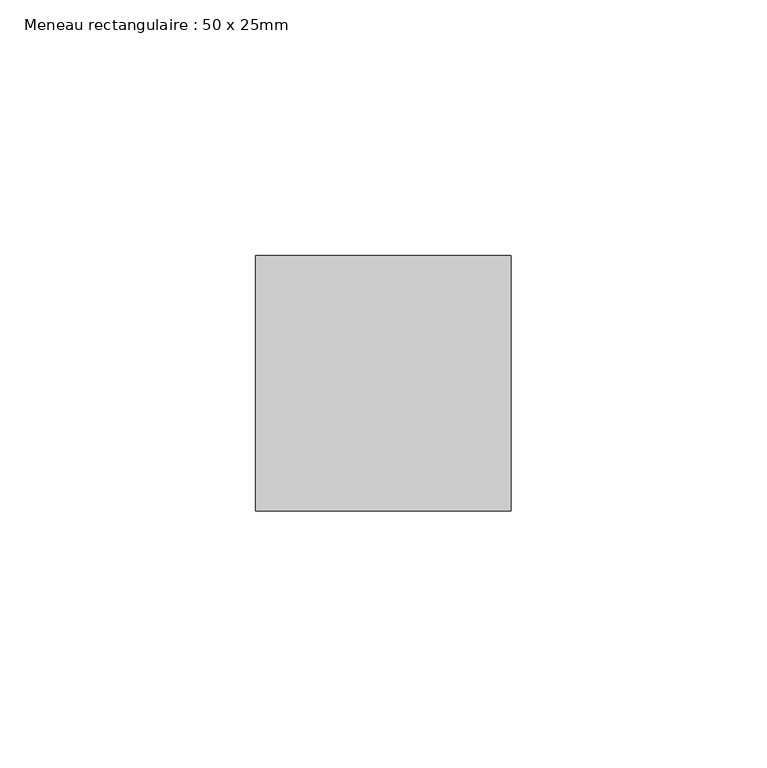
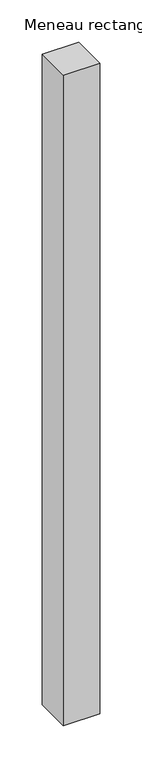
"""IFC4 building model written with IfcOpenShell, lengths in millimetres: member geometry, Meneau rectangulaire : 50 x 25mm."""

from ifc_helpers import new_model, si_unit, frame, origin, place, context, project, spatial, polyline, outline, extrude, source, transform, mapped, element, save


def meneau_rectangulaire_50_x_25mm_524058a1(model_context):
    return source(origin(), model_context, "Body", "SweptSolid", [
        extrude(outline(polyline([(25.0, 0.0), (25.0, -50.0), (-25.0, -50.0), (-25.0, 0.0), (25.0, 0.0)])), frame((0.0, 0.0, -942.0), z_axis=(0.0, 0.0, 1.0), x_axis=(1.0, 0.0, 0.0)), (0.0, 0.0, 1.0), 942.0),
    ])


if __name__ == "__main__":
    model = new_model("IFC4")
    model_context = context("Model", 3, world=origin())
    ifc_project = project(units=[si_unit("LENGTHUNIT", "METRE", prefix="MILLI")], contexts=[model_context])
    site = spatial("IfcSite", under=ifc_project)
    building = spatial("IfcBuilding", under=site)
    placement = place(None, origin())
    meneau_rectangulaire_50_x_25mm_shape = meneau_rectangulaire_50_x_25mm_524058a1(model_context)
    element("IfcMember", 1, ObjectType="Meneau rectangulaire : 50 x 25mm", at=placement, inside=building, context=model_context, shape_type="MappedRepresentation", body=[
        mapped(meneau_rectangulaire_50_x_25mm_shape, transform((0.0, 0.0, 0.0), x_axis=(1.0, 0.0, 0.0), y_axis=(0.0, 1.0, 0.0), z_axis=(0.0, 0.0, 1.0))),
    ])
    save(model, "model.ifc")
